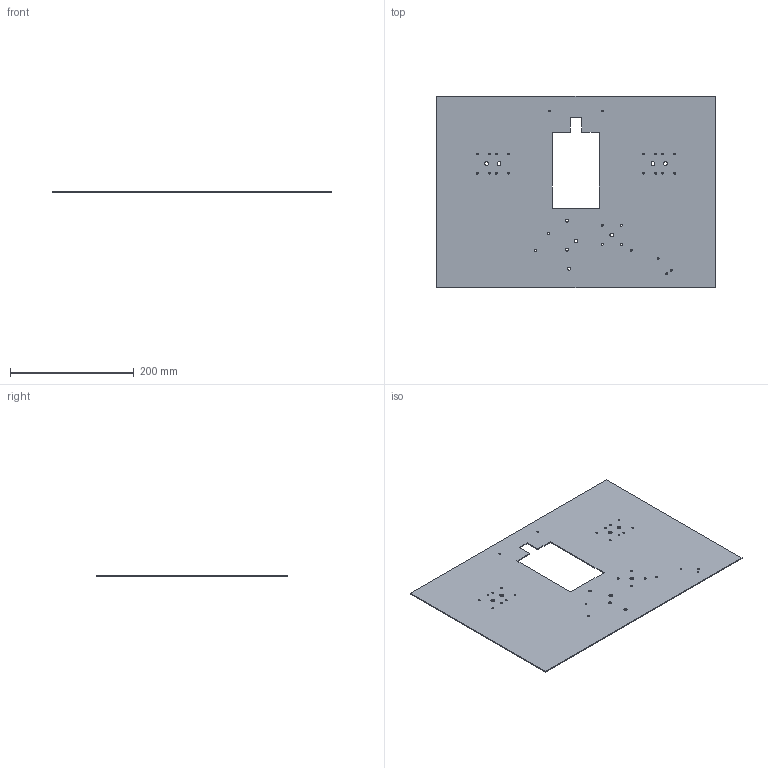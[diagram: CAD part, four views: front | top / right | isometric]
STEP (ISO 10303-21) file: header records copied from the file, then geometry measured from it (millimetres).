
FILE_DESCRIPTION(/* description */ (''),/* implementation_level */ '2;1');
FILE_NAME(/* name */ 'top-plate-ver3.1-utanhl.step',/* time_stamp */ '2025-12-27T15:24:05+01:00',/* author */ (''),/* organization */ (''),/* preprocessor_version */ 'ST-DEVELOPER v20.1',/* originating_system */ 'Autodesk Translation Framework v14.21.0.0',/* authorisation */ '');
FILE_SCHEMA (('AUTOMOTIVE_DESIGN { 1 0 10303 214 3 1 1 }'));
Length unit declared in the file: millimetre
Products named in the file (1): top-plate-ver3 zyxx
Bounding box: 450 x 310 x 1.5 mm (x, y, z)
Volume: 193848 mm3; surface area: 262050.7 mm2
Topology: 1 solids, 1 shells, 51 faces, 147 edges, 98 vertices
Faces by surface type: cylinder 37, plane 14
Full cylindrical faces by diameter (mm): 3 x28, 5 x3, 6 x6
Entity records: 1907 total; most frequent: DIRECTION 325, CARTESIAN_POINT 297, ORIENTED_EDGE 294, EDGE_CURVE 147, EDGE_LOOP 127, AXIS2_PLACEMENT_3D 126, VERTEX_POINT 98, FACE_BOUND 76
